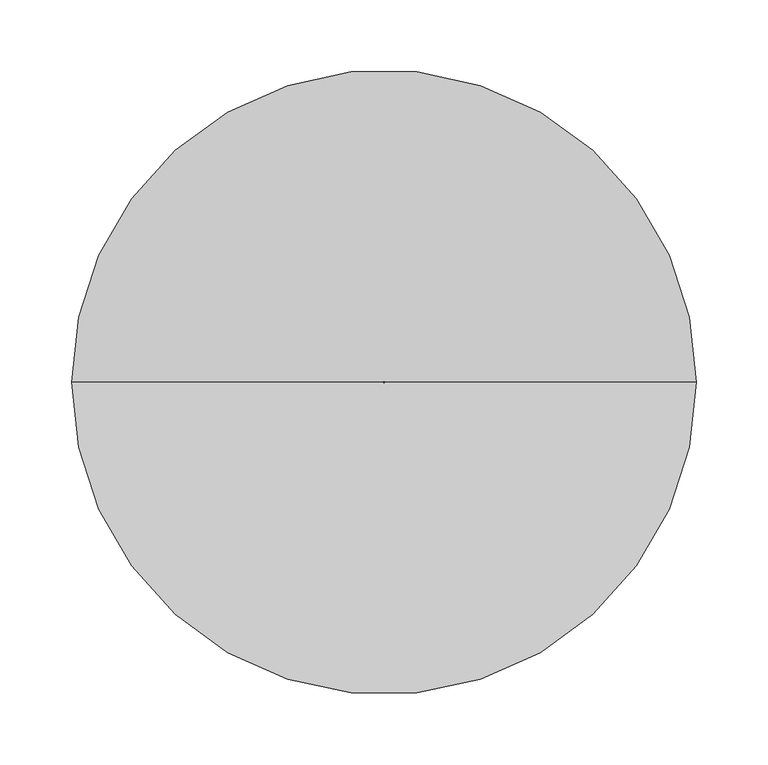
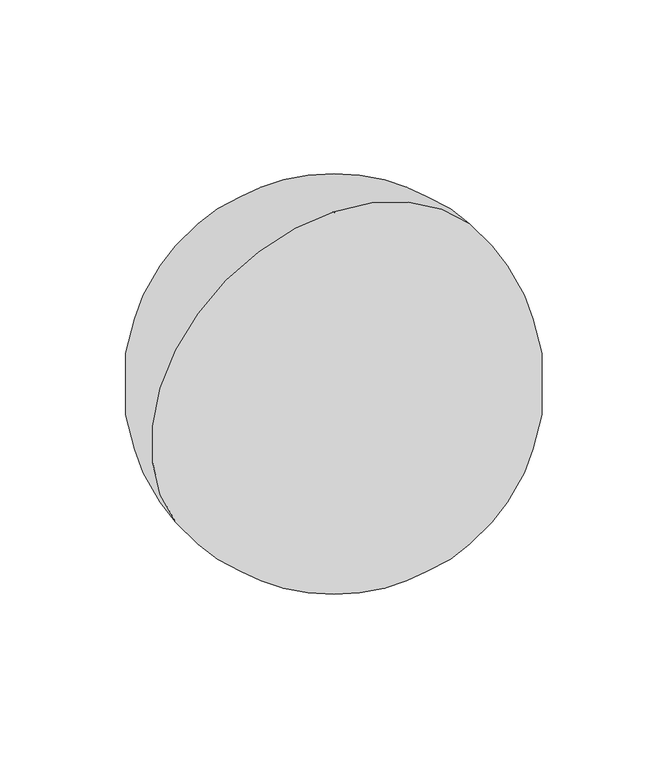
"""IFC4 building model written with IfcOpenShell, lengths in millimetres: proxy geometry."""

from ifc_helpers import new_model, si_unit, point, frame, origin, place, context, project, spatial, polyline, circle_curve, ellipse_curve, trimmed, source, transform, mapped, element, save
from ifc_brep_helpers import revolved_surface, advanced_brep


def generic_models_e88440d3(model_context):
    return source(origin(), model_context, "Body", "AdvancedBrep", [
        advanced_brep(
        [(39719.7968945, 6631.5525272, 160.0), (39721.1978628, 6631.5525272, 160.0), (39721.1978628, 6631.5525272, 595.0), (39719.7968945, 6631.5525272, 595.0)],
        [
            (0, 1, circle_curve(frame((39720.4973786, 6631.5525272, 160.0), z_axis=(0.0, 0.0, 1.0), x_axis=(1.0, 0.0, 0.0)), 0.7004842)),
            (1, 2, circle_curve(frame((39721.1978628, 6631.5525272, 377.5), z_axis=(0.0, -1.0, 0.0), x_axis=(1.0, 0.0, 0.0)), 217.5)),
            (2, 3, circle_curve(frame((39720.4973786, 6631.5525272, 595.0), z_axis=(0.0, 0.0, -1.0), x_axis=(1.0, 0.0, 0.0)), 0.7004842)),
            (3, 0, circle_curve(frame((39719.7968945, 6631.5525272, 377.5), z_axis=(0.0, -1.0, 0.0), x_axis=(-1.0, 0.0, 0.0)), 217.5)),
            (1, 0, circle_curve(frame((39720.4973786, 6631.5525272, 160.0), z_axis=(0.0, 0.0, 1.0), x_axis=(1.0, 0.0, 0.0)), 0.7004842)),
            (3, 2, circle_curve(frame((39720.4973786, 6631.5525272, 595.0), z_axis=(0.0, 0.0, -1.0), x_axis=(1.0, 0.0, 0.0)), 0.7004842)),
            (2, 1),
            (0, 3),
        ],
        [
            revolved_surface(trimmed(ellipse_curve(frame((39721.1978628, 6631.5525272, 377.5), z_axis=(0.0, 1.0, 0.0), x_axis=(1.0, 0.0, 0.0)), 217.5, 217.5), [point((39721.1978628, 6631.5525272, 595.0))], [point((39721.1978628, 6631.5525272, 160.0))], True, "CARTESIAN"), (39720.4973786, 6631.5525272, 500.0), (0.0, 0.0, -1.0)),
            revolved_surface(polyline([(39721.1978628, 6631.5525272, 160.0), (39721.1978628, 6631.5525272, 595.0)]), (39720.4973786, 6631.5525272, 500.0), (0.0, 0.0, -1.0)),
        ],
        [
            (0, [[1, 2, 3, 4]]),
            (0, [[5, -4, 6, -2]]),
            (1, [[-3, 7, -1, 8]]),
            (1, [[-6, -8, -5, -7]]),
        ],
    ),
    ])


if __name__ == "__main__":
    model = new_model("IFC4")
    model_context = context("Model", 3, world=origin())
    ifc_project = project(units=[si_unit("LENGTHUNIT", "METRE", prefix="MILLI")], contexts=[model_context])
    site = spatial("IfcSite", under=ifc_project)
    building = spatial("IfcBuilding", under=site)
    placement = place(None, origin())
    generic_models_shape = generic_models_e88440d3(model_context)
    element("IfcBuildingElementProxy", 1, Name="Generic Models", at=placement, inside=building, context=model_context, shape_type="MappedRepresentation", body=[
        mapped(generic_models_shape, transform((0.0, 0.0, 0.0), x_axis=(1.0, 0.0, 0.0), y_axis=(0.0, 1.0, 0.0), z_axis=(0.0, 0.0, 1.0))),
    ])
    save(model, "model.ifc")
